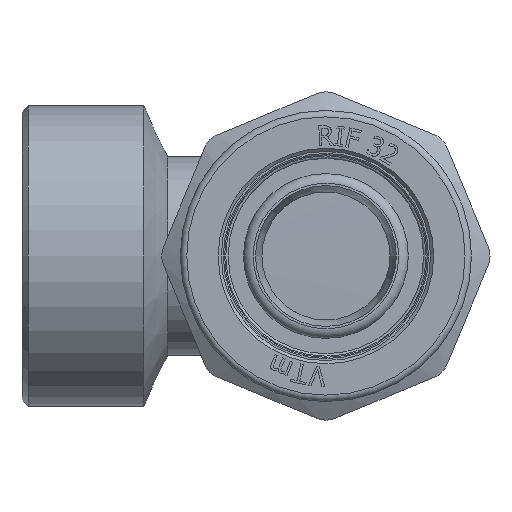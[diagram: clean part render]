
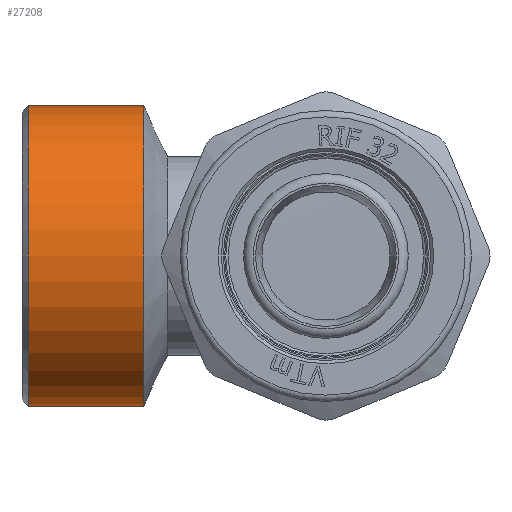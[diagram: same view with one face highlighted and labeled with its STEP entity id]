
A CAD part, left-side view. The second image highlights one B-rep face of the part: STEP entity #27208.
In plain terms, the highlighted cylindrical face has radius 23.5 mm (diameter 47 mm), a full revolution.
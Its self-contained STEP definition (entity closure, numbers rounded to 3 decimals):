
#1884=CIRCLE('',#28387,23.5);
#1885=CIRCLE('',#28388,23.5);
#1886=CIRCLE('',#28390,23.5);
#1887=CIRCLE('',#28391,23.5);
#3406=FACE_OUTER_BOUND('',#4963,.T.);
#4963=EDGE_LOOP('',(#25221,#25222,#25223,#25224,#25225,#25226));
#8534=LINE('',#65544,#10320);
#10320=VECTOR('',#32536,23.5);
#13039=VERTEX_POINT('',#65534);
#13040=VERTEX_POINT('',#65535);
#13041=VERTEX_POINT('',#65540);
#13042=VERTEX_POINT('',#65541);
#17139=EDGE_CURVE('',#13039,#13040,#1884,.T.);
#17140=EDGE_CURVE('',#13040,#13039,#1885,.T.);
#17142=EDGE_CURVE('',#13041,#13042,#1886,.T.);
#17143=EDGE_CURVE('',#13042,#13041,#1887,.T.);
#17144=EDGE_CURVE('',#13042,#13040,#8534,.T.);
#25221=ORIENTED_EDGE('',*,*,#17142,.F.);
#25222=ORIENTED_EDGE('',*,*,#17143,.F.);
#25223=ORIENTED_EDGE('',*,*,#17144,.T.);
#25224=ORIENTED_EDGE('',*,*,#17140,.T.);
#25225=ORIENTED_EDGE('',*,*,#17139,.T.);
#25226=ORIENTED_EDGE('',*,*,#17144,.F.);
#25791=CYLINDRICAL_SURFACE('',#28389,23.5);
#27208=ADVANCED_FACE('',(#3406),#25791,.T.);
#28387=AXIS2_PLACEMENT_3D('',#65536,#32525,#32526);
#28388=AXIS2_PLACEMENT_3D('',#65537,#32527,#32528);
#28389=AXIS2_PLACEMENT_3D('',#65539,#32530,#32531);
#28390=AXIS2_PLACEMENT_3D('',#65542,#32532,#32533);
#28391=AXIS2_PLACEMENT_3D('',#65543,#32534,#32535);
#32525=DIRECTION('center_axis',(0.,-1.,0.));
#32526=DIRECTION('ref_axis',(1.,0.,0.));
#32527=DIRECTION('center_axis',(0.,-1.,0.));
#32528=DIRECTION('ref_axis',(1.,0.,0.));
#32530=DIRECTION('center_axis',(0.,-1.,0.));
#32531=DIRECTION('ref_axis',(1.,0.,0.));
#32532=DIRECTION('center_axis',(0.,-1.,0.));
#32533=DIRECTION('ref_axis',(1.,0.,0.));
#32534=DIRECTION('center_axis',(0.,-1.,0.));
#32535=DIRECTION('ref_axis',(1.,0.,0.));
#32536=DIRECTION('',(0.,1.,0.));
#65534=CARTESIAN_POINT('',(23.5,46.5,0.));
#65535=CARTESIAN_POINT('',(-23.5,46.5,0.));
#65536=CARTESIAN_POINT('Origin',(0.,46.5,0.));
#65537=CARTESIAN_POINT('Origin',(0.,46.5,0.));
#65539=CARTESIAN_POINT('Origin',(0.,37.487,0.));
#65540=CARTESIAN_POINT('',(23.5,28.474,0.));
#65541=CARTESIAN_POINT('',(-23.5,28.474,0.));
#65542=CARTESIAN_POINT('Origin',(0.,28.474,0.));
#65543=CARTESIAN_POINT('Origin',(0.,28.474,0.));
#65544=CARTESIAN_POINT('',(-23.5,37.487,0.));
